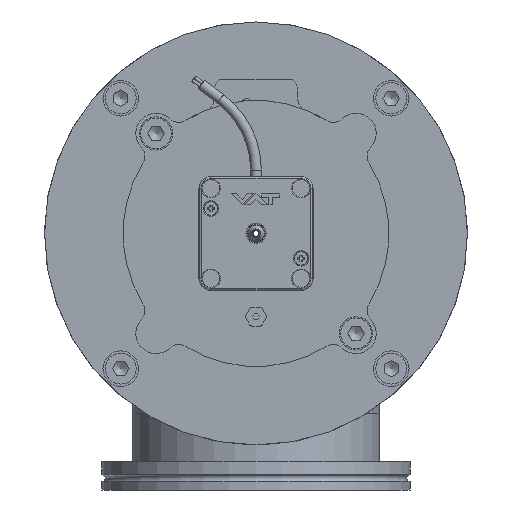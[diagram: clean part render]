
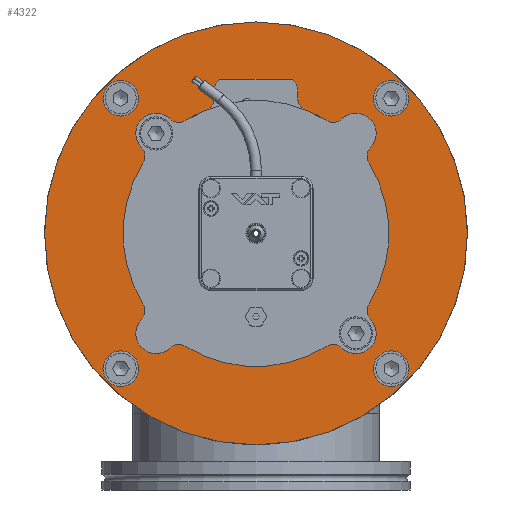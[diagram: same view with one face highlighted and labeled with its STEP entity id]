
A CAD part, left-side view. The second image highlights one B-rep face of the part: STEP entity #4322.
In plain terms, the highlighted planar face has unit normal (-1, 0, 0).
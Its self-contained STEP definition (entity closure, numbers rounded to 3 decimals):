
#4322=ADVANCED_FACE('BCT_REF_156008',(#5731,#5732,#5733,#5734,#5735,#5736,
#5737,#5738),#4704,.F.);
#4704=PLANE('',#14720);
#5223=CIRCLE('',#14697,89.);
#5233=CIRCLE('',#14713,3.4);
#5234=CIRCLE('',#14714,3.4);
#5235=CIRCLE('',#14715,7.5);
#5236=CIRCLE('',#14716,7.5);
#5237=CIRCLE('',#14717,7.5);
#5238=CIRCLE('',#14718,7.5);
#5239=CIRCLE('',#14719,55.145);
#5731=FACE_BOUND('',#6669,.T.);
#5732=FACE_BOUND('',#6670,.T.);
#5733=FACE_BOUND('',#6671,.T.);
#5734=FACE_BOUND('',#6672,.T.);
#5735=FACE_BOUND('',#6673,.T.);
#5736=FACE_BOUND('',#6674,.T.);
#5737=FACE_BOUND('',#6675,.T.);
#5738=FACE_BOUND('',#6676,.T.);
#6669=EDGE_LOOP('',(#9480));
#6670=EDGE_LOOP('',(#9481));
#6671=EDGE_LOOP('',(#9482));
#6672=EDGE_LOOP('',(#9483));
#6673=EDGE_LOOP('',(#9484));
#6674=EDGE_LOOP('',(#9485));
#6675=EDGE_LOOP('',(#9486));
#6676=EDGE_LOOP('',(#9487));
#9480=ORIENTED_EDGE('',*,*,#12116,.T.);
#9481=ORIENTED_EDGE('',*,*,#12117,.T.);
#9482=ORIENTED_EDGE('',*,*,#12118,.T.);
#9483=ORIENTED_EDGE('',*,*,#12119,.T.);
#9484=ORIENTED_EDGE('',*,*,#12120,.T.);
#9485=ORIENTED_EDGE('',*,*,#12121,.T.);
#9486=ORIENTED_EDGE('',*,*,#12122,.T.);
#9487=ORIENTED_EDGE('',*,*,#12096,.T.);
#10664=VERTEX_POINT('',#23359);
#10679=VERTEX_POINT('',#23412);
#10680=VERTEX_POINT('',#23414);
#10681=VERTEX_POINT('',#23416);
#10682=VERTEX_POINT('',#23418);
#10683=VERTEX_POINT('',#23420);
#10684=VERTEX_POINT('',#23422);
#10685=VERTEX_POINT('',#23424);
#12096=EDGE_CURVE('',#10664,#10664,#5223,.T.);
#12116=EDGE_CURVE('',#10679,#10679,#5233,.T.);
#12117=EDGE_CURVE('',#10680,#10680,#5234,.T.);
#12118=EDGE_CURVE('BCT_REF_155885',#10681,#10681,#5235,.T.);
#12119=EDGE_CURVE('',#10682,#10682,#5236,.T.);
#12120=EDGE_CURVE('',#10683,#10683,#5237,.T.);
#12121=EDGE_CURVE('',#10684,#10684,#5238,.T.);
#12122=EDGE_CURVE('BCT_REF_156011',#10685,#10685,#5239,.T.);
#14697=AXIS2_PLACEMENT_3D('',#23358,#17624,#17625);
#14713=AXIS2_PLACEMENT_3D('',#23411,#17664,#17665);
#14714=AXIS2_PLACEMENT_3D('',#23413,#17666,#17667);
#14715=AXIS2_PLACEMENT_3D('',#23415,#17668,#17669);
#14716=AXIS2_PLACEMENT_3D('',#23417,#17670,#17671);
#14717=AXIS2_PLACEMENT_3D('',#23419,#17672,#17673);
#14718=AXIS2_PLACEMENT_3D('',#23421,#17674,#17675);
#14719=AXIS2_PLACEMENT_3D('',#23423,#17676,#17677);
#14720=AXIS2_PLACEMENT_3D('',#23425,#17678,#17679);
#17624=DIRECTION('',(-1.,0.,0.));
#17625=DIRECTION('',(0.,0.,1.));
#17664=DIRECTION('',(1.,0.,0.));
#17665=DIRECTION('',(0.,0.,1.));
#17666=DIRECTION('',(1.,0.,0.));
#17667=DIRECTION('',(0.,0.,-1.));
#17668=DIRECTION('',(1.,0.,0.));
#17669=DIRECTION('',(0.,-1.,0.));
#17670=DIRECTION('',(1.,0.,0.));
#17671=DIRECTION('',(0.,0.,1.));
#17672=DIRECTION('',(1.,0.,0.));
#17673=DIRECTION('',(0.,1.,0.));
#17674=DIRECTION('',(1.,0.,0.));
#17675=DIRECTION('',(0.,0.,-1.));
#17676=DIRECTION('',(1.,0.,0.));
#17677=DIRECTION('',(0.,0.,-1.));
#17678=DIRECTION('',(1.,0.,0.));
#17679=DIRECTION('',(0.,0.,-1.));
#23358=CARTESIAN_POINT('',(0.,0.,0.));
#23359=CARTESIAN_POINT('',(0.,0.,89.));
#23411=CARTESIAN_POINT('',(0.,-42.073,42.073));
#23412=CARTESIAN_POINT('',(0.,-42.073,45.473));
#23413=CARTESIAN_POINT('',(0.,42.073,-42.073));
#23414=CARTESIAN_POINT('',(0.,42.073,-45.473));
#23415=CARTESIAN_POINT('',(0.,56.922,-56.922));
#23416=CARTESIAN_POINT('',(0.,49.422,-56.922));
#23417=CARTESIAN_POINT('',(0.,-56.922,-56.922));
#23418=CARTESIAN_POINT('',(0.,-56.922,-49.422));
#23419=CARTESIAN_POINT('',(0.,-56.922,56.922));
#23420=CARTESIAN_POINT('',(0.,-49.422,56.922));
#23421=CARTESIAN_POINT('',(0.,56.922,56.922));
#23422=CARTESIAN_POINT('',(0.,56.922,49.422));
#23423=CARTESIAN_POINT('',(0.,0.,0.));
#23424=CARTESIAN_POINT('',(0.,0.,-55.145));
#23425=CARTESIAN_POINT('',(0.,89.,0.));
